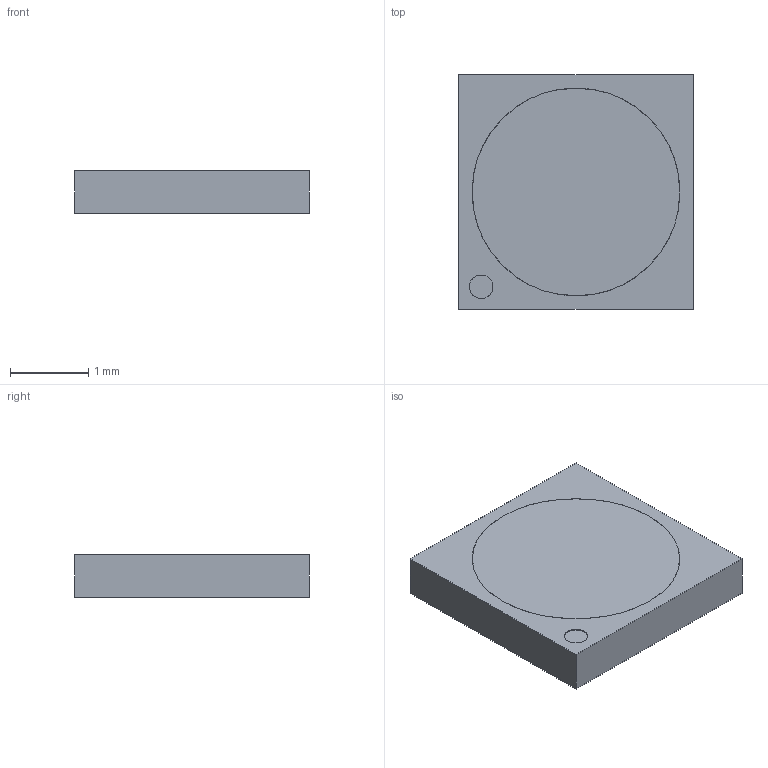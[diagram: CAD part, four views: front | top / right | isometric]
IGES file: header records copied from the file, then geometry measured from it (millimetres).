
Start section: SolidWorks IGES file using analytic representation for surfaces
Global section: file name: C:\Users\user\Desktop\SW22\ヶ蚾陬腑3D恅璃\LWEB.IGS; native system: SolidWorks 2022; preprocessor: SolidWorks 2022; author: user; date: 240125.040005; units: millimetre
Bounding box: 3 x 3 x 0.54 mm (x, y, z)
Surface area: 24.5 mm2 (no closed solid volume)
Topology: 0 solids, 0 shells, 12 faces, 96 edges, 96 vertices
Faces by surface type: bspline 10, revolution 2
